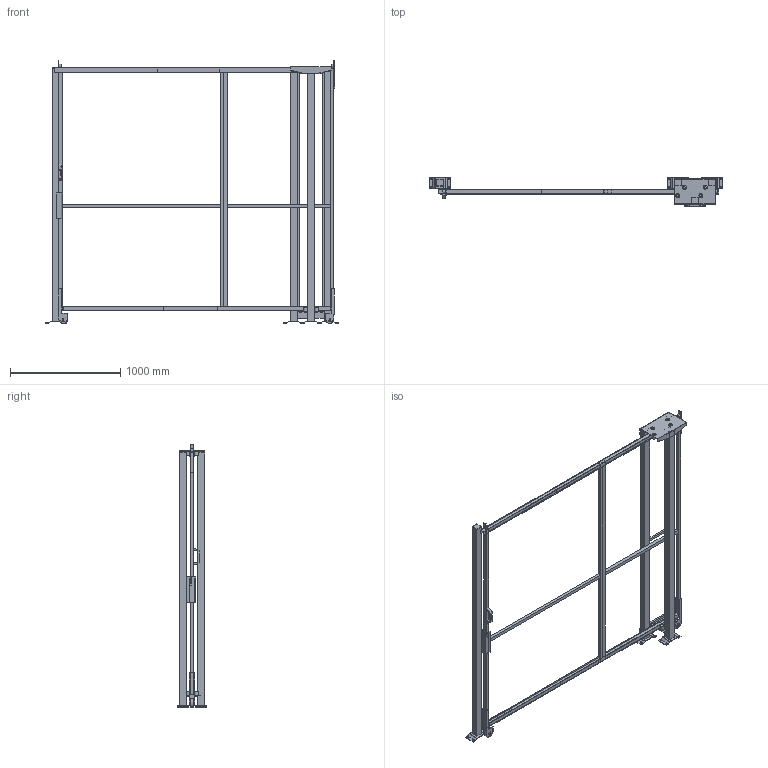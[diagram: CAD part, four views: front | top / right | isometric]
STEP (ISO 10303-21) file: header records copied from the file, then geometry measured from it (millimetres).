
FILE_DESCRIPTION(/* description */ (''),/* implementation_level */ '2;1');
FILE_NAME(/* name */ 'C:\SafeGuarding\ELABORATI\KLADKA_2025-03-20-09-12-41.stp',/* time_stamp */ '2025-03-20T09:12:46+01:00',/* author */ ('admin'),/* organization */ (''),/* preprocessor_version */ 'ST-DEVELOPER v18.1',/* originating_system */ 'AutoCAD Mechanical',/* authorisation */ '');
FILE_SCHEMA (('AUTOMOTIVE_DESIGN { 1 0 10303 214 3 1 1 }'));
Length unit declared in the file: millimetre
Products named in the file (5): Product; R_VFPA.REPE30.10002200; R_VFPA.REPE30.15002200; R_VFPA.REPE20.02502200; P_VFMA.V360SDU.2320
Assembly tree (7 placements, depth 2):
  Product
    R_VFPA.REPE30.10002200
    R_VFPA.REPE30.15002200
    R_VFPA.REPE20.02502200
    P_VFMA.V360SDU.2320  x4
Bounding box: 2662.03 x 264.11 x 2390.02 mm (x, y, z)
Volume: 53092054.2 mm3; surface area: 6931603.9 mm2
Topology: 60 solids, 71 shells, 549 faces, 1717 edges, 1745 vertices
Faces by surface type: plane 497, cylinder 50, sphere 2
Full cylindrical faces by diameter (mm): 9 x4, 11 x16, 13 x4, 30 x6, 36 x8, 80 x2
Entity records: 16043 total; most frequent: CARTESIAN_POINT 3473, DIRECTION 2429, ORIENTED_EDGE 2178, LINE 1199, VECTOR 1199, EDGE_CURVE 1138, VERTEX_POINT 798, AXIS2_PLACEMENT_3D 615
